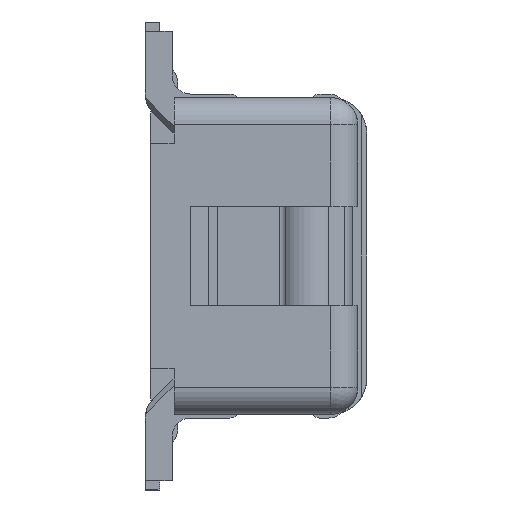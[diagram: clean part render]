
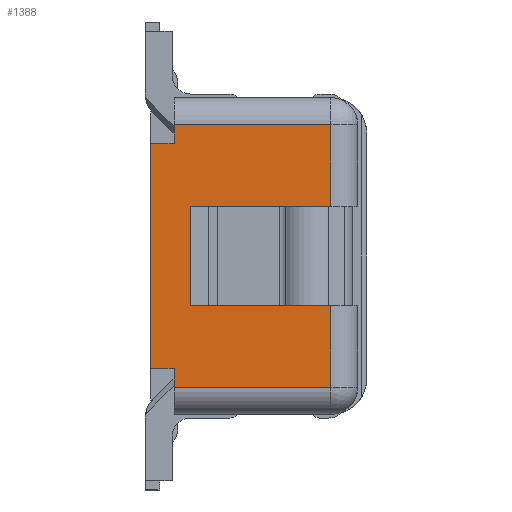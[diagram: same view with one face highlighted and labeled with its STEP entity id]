
A CAD part, left-side view. The second image highlights one B-rep face of the part: STEP entity #1388.
In plain terms, the highlighted planar face has unit normal (-1, 0, 0).
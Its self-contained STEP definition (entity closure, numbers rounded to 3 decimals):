
#112 = CARTESIAN_POINT ( 'NONE',  ( -4.26, 1.25, 0.275 ) ) ;
#141 = LINE ( 'NONE', #29454, #13485 ) ;
#1388 = ADVANCED_FACE ( 'NONE', ( #10624 ), #33751, .T. ) ;
#1530 = LINE ( 'NONE', #18436, #24182 ) ;
#1562 = CARTESIAN_POINT ( 'NONE',  ( -4.26, 1.34, -0.88 ) ) ;
#1574 = CARTESIAN_POINT ( 'NONE',  ( -4.26, 1.34, -0.73 ) ) ;
#2170 = DIRECTION ( 'NONE',  ( 0., 0., 1. ) ) ;
#2466 = VERTEX_POINT ( 'NONE', #4862 ) ;
#2468 = CARTESIAN_POINT ( 'NONE',  ( -4.26, 1.34, 0.625 ) ) ;
#2657 = VERTEX_POINT ( 'NONE', #112 ) ;
#2887 = EDGE_CURVE ( 'NONE', #7644, #8353, #30624, .T. ) ;
#3437 = VERTEX_POINT ( 'NONE', #7393 ) ;
#3539 = EDGE_CURVE ( 'NONE', #2466, #22544, #23473, .T. ) ;
#4217 = VERTEX_POINT ( 'NONE', #19179 ) ;
#4402 = DIRECTION ( 'NONE',  ( 0., 0., -1. ) ) ;
#4862 = CARTESIAN_POINT ( 'NONE',  ( -4.26, 0.47, 0.73 ) ) ;
#4945 = ORIENTED_EDGE ( 'NONE', *, *, #15195, .T. ) ;
#5263 = LINE ( 'NONE', #33064, #26162 ) ;
#5407 = CARTESIAN_POINT ( 'NONE',  ( -4.26, 0., 0. ) ) ;
#5886 = ORIENTED_EDGE ( 'NONE', *, *, #15092, .F. ) ;
#6266 = LINE ( 'NONE', #19153, #28051 ) ;
#6680 = CARTESIAN_POINT ( 'NONE',  ( -4.26, 0.27, -0.275 ) ) ;
#6925 = CARTESIAN_POINT ( 'NONE',  ( -4.26, 1.34, 0.625 ) ) ;
#7393 = CARTESIAN_POINT ( 'NONE',  ( -4.26, 1.34, -0.625 ) ) ;
#7608 = EDGE_CURVE ( 'NONE', #10906, #2657, #6266, .T. ) ;
#7629 = ORIENTED_EDGE ( 'NONE', *, *, #7608, .T. ) ;
#7644 = VERTEX_POINT ( 'NONE', #2468 ) ;
#7866 = DIRECTION ( 'NONE',  ( 0., 1., 0. ) ) ;
#8122 = CARTESIAN_POINT ( 'NONE',  ( -4.26, 1.47, 0.625 ) ) ;
#8333 = VECTOR ( 'NONE', #7866, 1000. ) ;
#8353 = VERTEX_POINT ( 'NONE', #8122 ) ;
#8778 = CARTESIAN_POINT ( 'NONE',  ( -4.26, 1.34, 0.88 ) ) ;
#9472 = DIRECTION ( 'NONE',  ( 0., 1., 0. ) ) ;
#9989 = LINE ( 'NONE', #20808, #24241 ) ;
#10121 = LINE ( 'NONE', #6680, #17723 ) ;
#10624 = FACE_OUTER_BOUND ( 'NONE', #35586, .T. ) ;
#10906 = VERTEX_POINT ( 'NONE', #31777 ) ;
#11131 = DIRECTION ( 'NONE',  ( -1., 0., 0. ) ) ;
#11155 = ORIENTED_EDGE ( 'NONE', *, *, #25800, .T. ) ;
#11635 = LINE ( 'NONE', #25475, #34325 ) ;
#12657 = DIRECTION ( 'NONE',  ( 0., 1., 0. ) ) ;
#12760 = AXIS2_PLACEMENT_3D ( 'NONE', #5407, #11131, #31009 ) ;
#13123 = LINE ( 'NONE', #1562, #19784 ) ;
#13485 = VECTOR ( 'NONE', #26716, 1000. ) ;
#15092 = EDGE_CURVE ( 'NONE', #3437, #4217, #9989, .T. ) ;
#15195 = EDGE_CURVE ( 'NONE', #3437, #16575, #13123, .T. ) ;
#15386 = ORIENTED_EDGE ( 'NONE', *, *, #36508, .T. ) ;
#15980 = ORIENTED_EDGE ( 'NONE', *, *, #25519, .F. ) ;
#16355 = CARTESIAN_POINT ( 'NONE',  ( -4.26, 0.47, 0. ) ) ;
#16418 = DIRECTION ( 'NONE',  ( 0., 0., 1. ) ) ;
#16575 = VERTEX_POINT ( 'NONE', #1574 ) ;
#17723 = VECTOR ( 'NONE', #23706, 1000. ) ;
#18338 = ORIENTED_EDGE ( 'NONE', *, *, #3539, .T. ) ;
#18436 = CARTESIAN_POINT ( 'NONE',  ( -4.26, 0.27, -0.73 ) ) ;
#18514 = ORIENTED_EDGE ( 'NONE', *, *, #34079, .T. ) ;
#18664 = EDGE_CURVE ( 'NONE', #22544, #7644, #27927, .T. ) ;
#19153 = CARTESIAN_POINT ( 'NONE',  ( -4.26, 1.25, 0. ) ) ;
#19179 = CARTESIAN_POINT ( 'NONE',  ( -4.26, 1.47, -0.625 ) ) ;
#19529 = ORIENTED_EDGE ( 'NONE', *, *, #33591, .F. ) ;
#19784 = VECTOR ( 'NONE', #4402, 1000. ) ;
#19967 = LINE ( 'NONE', #16355, #25716 ) ;
#20083 = CARTESIAN_POINT ( 'NONE',  ( -4.26, 1.34, 0.73 ) ) ;
#20719 = VERTEX_POINT ( 'NONE', #33480 ) ;
#20808 = CARTESIAN_POINT ( 'NONE',  ( -4.26, 1.34, -0.625 ) ) ;
#21251 = EDGE_CURVE ( 'NONE', #20719, #35923, #19967, .T. ) ;
#22060 = CARTESIAN_POINT ( 'NONE',  ( -4.26, 1.34, 0.73 ) ) ;
#22544 = VERTEX_POINT ( 'NONE', #20083 ) ;
#22969 = DIRECTION ( 'NONE',  ( 0., 0., -1. ) ) ;
#23073 = VECTOR ( 'NONE', #12657, 1000. ) ;
#23473 = LINE ( 'NONE', #22060, #8333 ) ;
#23658 = ORIENTED_EDGE ( 'NONE', *, *, #18664, .T. ) ;
#23706 = DIRECTION ( 'NONE',  ( 0., 1., 0. ) ) ;
#23784 = CARTESIAN_POINT ( 'NONE',  ( -4.26, 0.47, -0.275 ) ) ;
#24182 = VECTOR ( 'NONE', #26838, 1000. ) ;
#24241 = VECTOR ( 'NONE', #9472, 1000. ) ;
#24623 = DIRECTION ( 'NONE',  ( 0., 0., 1. ) ) ;
#25475 = CARTESIAN_POINT ( 'NONE',  ( -4.26, 0.27, 0.275 ) ) ;
#25519 = EDGE_CURVE ( 'NONE', #32314, #2657, #11635, .T. ) ;
#25716 = VECTOR ( 'NONE', #2170, 1000. ) ;
#25800 = EDGE_CURVE ( 'NONE', #16575, #20719, #1530, .T. ) ;
#26162 = VECTOR ( 'NONE', #24623, 1000. ) ;
#26716 = DIRECTION ( 'NONE',  ( 0., 0., 1. ) ) ;
#26838 = DIRECTION ( 'NONE',  ( 0., -1., 0. ) ) ;
#27927 = LINE ( 'NONE', #8778, #33715 ) ;
#27958 = ORIENTED_EDGE ( 'NONE', *, *, #2887, .T. ) ;
#28051 = VECTOR ( 'NONE', #16418, 1000. ) ;
#28329 = ORIENTED_EDGE ( 'NONE', *, *, #21251, .T. ) ;
#29454 = CARTESIAN_POINT ( 'NONE',  ( -4.26, 0.47, 0. ) ) ;
#30624 = LINE ( 'NONE', #6925, #23073 ) ;
#31009 = DIRECTION ( 'NONE',  ( 0., 0., -1. ) ) ;
#31190 = DIRECTION ( 'NONE',  ( 0., 1., 0. ) ) ;
#31777 = CARTESIAN_POINT ( 'NONE',  ( -4.26, 1.25, -0.275 ) ) ;
#32314 = VERTEX_POINT ( 'NONE', #35425 ) ;
#33064 = CARTESIAN_POINT ( 'NONE',  ( -4.26, 1.47, 0.88 ) ) ;
#33480 = CARTESIAN_POINT ( 'NONE',  ( -4.26, 0.47, -0.73 ) ) ;
#33591 = EDGE_CURVE ( 'NONE', #4217, #8353, #5263, .T. ) ;
#33715 = VECTOR ( 'NONE', #22969, 1000. ) ;
#33751 = PLANE ( 'NONE',  #12760 ) ;
#34079 = EDGE_CURVE ( 'NONE', #35923, #10906, #10121, .T. ) ;
#34325 = VECTOR ( 'NONE', #31190, 1000. ) ;
#35425 = CARTESIAN_POINT ( 'NONE',  ( -4.26, 0.47, 0.275 ) ) ;
#35586 = EDGE_LOOP ( 'NONE', ( #7629, #15980, #15386, #18338, #23658, #27958, #19529, #5886, #4945, #11155, #28329, #18514 ) ) ;
#35923 = VERTEX_POINT ( 'NONE', #23784 ) ;
#36508 = EDGE_CURVE ( 'NONE', #32314, #2466, #141, .T. ) ;
